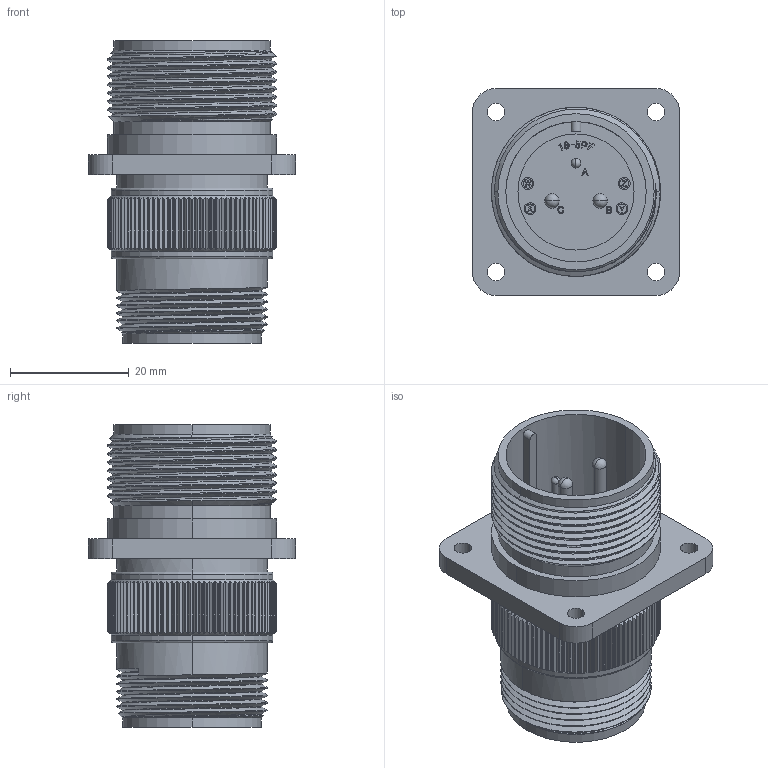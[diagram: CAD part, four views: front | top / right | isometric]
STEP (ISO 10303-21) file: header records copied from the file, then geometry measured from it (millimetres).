
FILE_DESCRIPTION (( 'STEP AP203' ), '1' );
FILE_NAME ('DMS3100A18-5P.STEP', '2017-07-18T00:26:19', ( '' ), ( '' ), 'SwSTEP 2.0', 'SolidWorks 2015', '' );
FILE_SCHEMA (( 'CONFIG_CONTROL_DESIGN' ));
Length unit declared in the file: millimetre
Products named in the file (1): DMS3100A18-5P
Bounding box: 34.92 x 34.92 x 51.06 mm (x, y, z)
Volume: 16320 mm3; surface area: 12900.8 mm2
Topology: 1 solids, 1 shells, 1252 faces, 3519 edges, 2326 vertices
Faces by surface type: cylinder 559, plane 461, bspline 198, cone 20, torus 12, sphere 2
Entity records: 53805 total; most frequent: CARTESIAN_POINT 24662, ORIENTED_EDGE 7030, DIRECTION 4541, EDGE_CURVE 3515, VERTEX_POINT 2326, VECTOR 1559, LINE 1559, AXIS2_PLACEMENT_3D 1491
